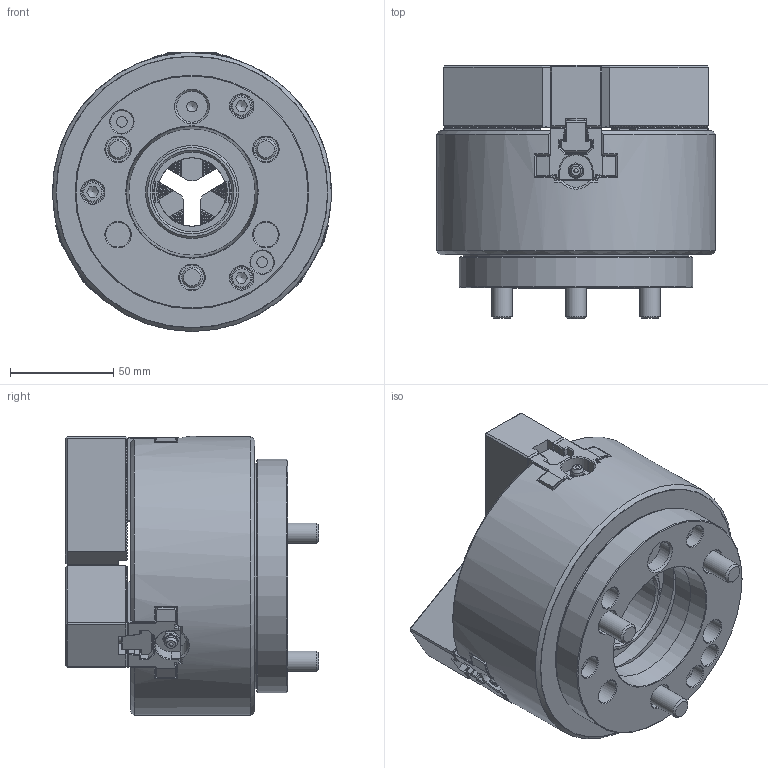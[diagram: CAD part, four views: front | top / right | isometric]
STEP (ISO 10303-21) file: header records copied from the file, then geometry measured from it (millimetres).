
FILE_DESCRIPTION(/* description */ (''),/* implementation_level */ '2;1');
FILE_NAME(/* name */ 'C:\Users\034\Desktop\需重新取代\OP-205-A4.stp',/* time_stamp */ '2024-09-03T16:45:32+08:00',/* author */ ('034'),/* organization */ (''),/* preprocessor_version */ 'ST-DEVELOPER v16.13',/* originating_system */ 'Autodesk Inventor 2018',/* authorisation */ '');
FILE_SCHEMA (('AUTOMOTIVE_DESIGN { 1 0 10303 214 3 1 1 }'));
Products named in the file (1): OP-205-A4
Bounding box: 134.99 x 122.39 x 135 mm (x, y, z)
Volume: 962148.7 mm3; surface area: 152064.1 mm2
Topology: 1 solids, 29 shells, 4200 faces, 12960 edges, 8321 vertices
Faces by surface type: plane 2698, cylinder 927, bspline 335, cone 171, torus 54, sphere 15
Full cylindrical faces by diameter (mm): 4 x3, 4.5 x3, 5.1 x2, 5.2 x3, 6 x6, 6.6 x3, 6.8 x9, 7.6 x3, 8 x6, 8.5 x9, 10 x9, 11 x5, 12 x8, 13 x6, 13.5 x6, 15 x1, 16 x3, 17 x3, 33 x1, 34.1 x1, 36 x1, 36.2 x1, 38.5 x1, 40.5 x1, 40.989 x1, 45 x1, 61.1 x1, 66.042 x1, 109.2 x1, 110 x2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
Entity records: 144257 total; most frequent: CARTESIAN_POINT 30720, ORIENTED_EDGE 25210, DIRECTION 21734, EDGE_CURVE 12605, LINE 9396, VECTOR 9396, VERTEX_POINT 8216, AXIS2_PLACEMENT_3D 6169
